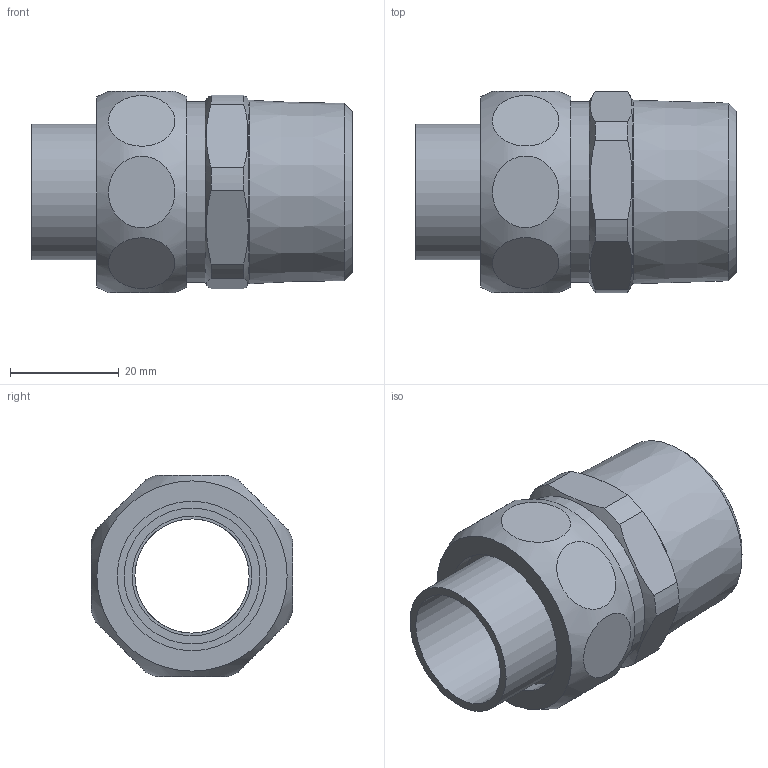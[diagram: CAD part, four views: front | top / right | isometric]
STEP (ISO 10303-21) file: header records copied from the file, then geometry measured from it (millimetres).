
FILE_DESCRIPTION((''),'2;1');
FILE_NAME('\\LG50001\SANHA_Legnica\Engineering\Public\RYSUNKI\SANHA POLSKA\4333g\step\14333g_22-1(1).stp','2014-02-18T07:02:24',('haldrzynski'),(''),'Autodesk Inventor 2009','Autodesk Inventor 2009','');
FILE_SCHEMA(('AUTOMOTIVE_DESIGN { 1 0 10303 214 1 1 1 1 }'));
Length unit declared in the file: millimetre
Products named in the file (5): 14333g_22-1(1); 14374_1(1); 14376G_1-1(1); 1DCU1; 14372_22-1(1)
Assembly tree (4 placements, depth 2):
  14333g_22-1(1)
    14374_1(1)
    14376G_1-1(1)
    1DCU1
    14372_22-1(1)
Bounding box: 59 x 37 x 37 mm (x, y, z)
Volume: 26477.4 mm3; surface area: 16412.8 mm2
Topology: 4 solids, 4 shells, 49 faces, 94 edges, 63 vertices
Faces by surface type: plane 25, cylinder 17, cone 6, bspline 1
Full cylindrical faces by diameter (mm): 21 x2, 22 x1, 24 x1, 25 x1, 27.5 x1, 29.5 x1, 30 x1, 30.291 x1, 33.249 x1, 33.787 x1
Entity records: 2531 total; most frequent: CARTESIAN_POINT 1464, DIRECTION 206, ORIENTED_EDGE 144, AXIS2_PLACEMENT_3D 97, EDGE_LOOP 86, EDGE_CURVE 72, VERTEX_POINT 60, FACE_OUTER_BOUND 49
